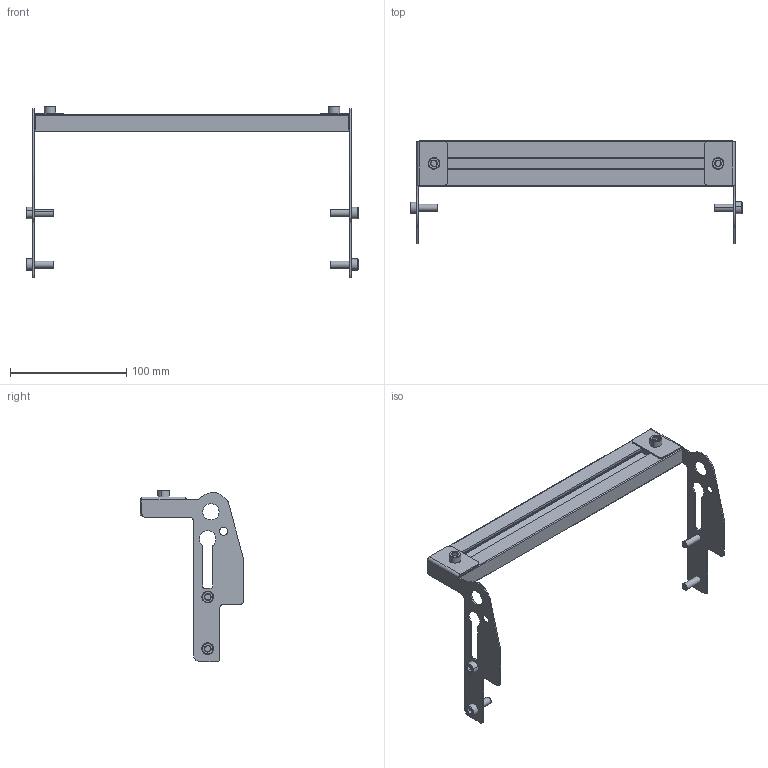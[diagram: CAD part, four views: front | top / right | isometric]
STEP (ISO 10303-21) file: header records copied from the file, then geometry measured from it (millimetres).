
FILE_DESCRIPTION((''),'2;1');
FILE_NAME('207213-10_ASM','2016-07-25T',('adam.dellomodarme'),(''),'PRO/ENGINEER BY PARAMETRIC TECHNOLOGY CORPORATION, 2012420','PRO/ENGINEER BY PARAMETRIC TECHNOLOGY CORPORATION, 2012420','');
FILE_SCHEMA(('CONFIG_CONTROL_DESIGN'));
Length unit declared in the file: inch
Products named in the file (8): 9206XXM_920612M; 207216-WW_207216-10; 9206XXM_920618M; 207130-LH; 207130-RH; 834-019; ASM0001_ASM; 207213-10_ASM
Assembly tree (12 placements, depth 3):
  207213-10_ASM
    ASM0001_ASM
      9206XXM_920612M  x2
      207216-WW_207216-10
      9206XXM_920618M  x4
      207130-LH
      207130-RH
      834-019  x2
Bounding box: 285.61 x 88.64 x 147.81 mm (x, y, z)
Volume: 96671.5 mm3; surface area: 94676.4 mm2
Topology: 11 solids, 11 shells, 344 faces, 843 edges, 533 vertices
Faces by surface type: plane 146, cylinder 132, cone 66
Entity records: 7865 total; most frequent: CARTESIAN_POINT 1482, DIRECTION 1384, ORIENTED_EDGE 1258, EDGE_CURVE 629, AXIS2_PLACEMENT_3D 518, VERTEX_POINT 409, VECTOR 348, LINE 348
